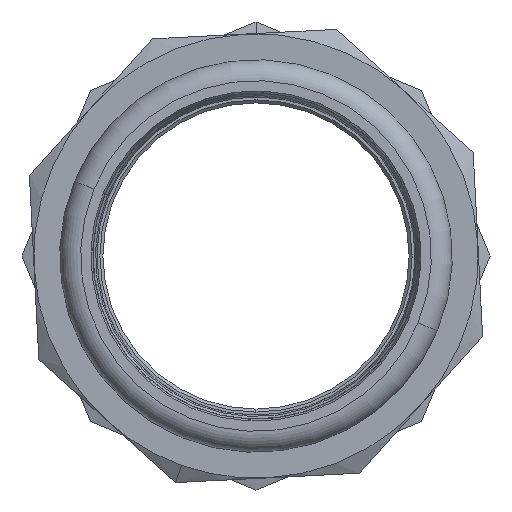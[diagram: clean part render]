
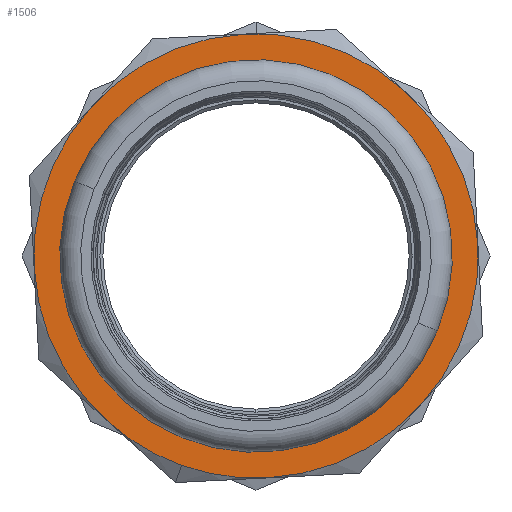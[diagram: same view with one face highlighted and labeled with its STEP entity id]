
A CAD part, left-side view. The second image highlights one B-rep face of the part: STEP entity #1506.
In plain terms, the highlighted planar face has unit normal (-1, 0, 0) as drawn and (0, 1, 0) by its records, which use the part's own axes.
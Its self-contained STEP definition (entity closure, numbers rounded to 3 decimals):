
#29 = CIRCLE ( 'NONE', #2797, 37. ) ;
#47 = EDGE_CURVE ( 'NONE', #2374, #528, #3979, .T. ) ;
#184 = CARTESIAN_POINT ( 'NONE',  ( -14.159, 23., 34.184 ) ) ;
#193 = CIRCLE ( 'NONE', #3686, 37. ) ;
#201 = AXIS2_PLACEMENT_3D ( 'NONE', #1074, #703, #1417 ) ;
#204 = AXIS2_PLACEMENT_3D ( 'NONE', #846, #2283, #2995 ) ;
#220 = FACE_BOUND ( 'NONE', #3911, .T. ) ;
#248 = AXIS2_PLACEMENT_3D ( 'NONE', #3190, #749, #1475 ) ;
#283 = CARTESIAN_POINT ( 'NONE',  ( 0., 23., 0. ) ) ;
#350 = CIRCLE ( 'NONE', #204, 37. ) ;
#375 = CARTESIAN_POINT ( 'NONE',  ( -34.184, 23., 14.159 ) ) ;
#528 = VERTEX_POINT ( 'NONE', #1035 ) ;
#556 = DIRECTION ( 'NONE',  ( 0., 0., 1. ) ) ;
#558 = AXIS2_PLACEMENT_3D ( 'NONE', #283, #2404, #2071 ) ;
#603 = EDGE_CURVE ( 'NONE', #2034, #4062, #2807, .T. ) ;
#639 = DIRECTION ( 'NONE',  ( 0., 0., 1. ) ) ;
#642 = ORIENTED_EDGE ( 'NONE', *, *, #3900, .T. ) ;
#700 = CIRCLE ( 'NONE', #2695, 37. ) ;
#703 = DIRECTION ( 'NONE',  ( 0., 1., 0. ) ) ;
#749 = DIRECTION ( 'NONE',  ( 0., 1., 0. ) ) ;
#806 = CARTESIAN_POINT ( 'NONE',  ( 0., 23., 0. ) ) ;
#846 = CARTESIAN_POINT ( 'NONE',  ( 0., 23., 0. ) ) ;
#936 = CARTESIAN_POINT ( 'NONE',  ( 14.159, 23., 34.184 ) ) ;
#946 = DIRECTION ( 'NONE',  ( 0., 0., 1. ) ) ;
#949 = AXIS2_PLACEMENT_3D ( 'NONE', #987, #2632, #1332 ) ;
#961 = DIRECTION ( 'NONE',  ( 0., 0., 1. ) ) ;
#987 = CARTESIAN_POINT ( 'NONE',  ( 0., 23., 0. ) ) ;
#1035 = CARTESIAN_POINT ( 'NONE',  ( 0., 23., 29.15 ) ) ;
#1074 = CARTESIAN_POINT ( 'NONE',  ( 0., 23., 0. ) ) ;
#1120 = ORIENTED_EDGE ( 'NONE', *, *, #4374, .F. ) ;
#1168 = DIRECTION ( 'NONE',  ( 0., 0., 1. ) ) ;
#1214 = CARTESIAN_POINT ( 'NONE',  ( 34.184, 23., 14.159 ) ) ;
#1228 = AXIS2_PLACEMENT_3D ( 'NONE', #3403, #1977, #556 ) ;
#1332 = DIRECTION ( 'NONE',  ( 0., 0., 1. ) ) ;
#1334 = CARTESIAN_POINT ( 'NONE',  ( 14.159, 23., -34.184 ) ) ;
#1354 = DIRECTION ( 'NONE',  ( 0., 1., 0. ) ) ;
#1366 = DIRECTION ( 'NONE',  ( 0., 1., 0. ) ) ;
#1374 = ORIENTED_EDGE ( 'NONE', *, *, #3738, .T. ) ;
#1417 = DIRECTION ( 'NONE',  ( 0., 0., 1. ) ) ;
#1439 = AXIS2_PLACEMENT_3D ( 'NONE', #806, #2686, #1168 ) ;
#1475 = DIRECTION ( 'NONE',  ( 0., 0., 1. ) ) ;
#1506 = ADVANCED_FACE ( 'NONE', ( #220, #2912 ), #1974, .T. ) ;
#1692 = VERTEX_POINT ( 'NONE', #936 ) ;
#1693 = CIRCLE ( 'NONE', #949, 37. ) ;
#1699 = CIRCLE ( 'NONE', #1228, 37. ) ;
#1740 = DIRECTION ( 'NONE',  ( 0., 1., 0. ) ) ;
#1743 = CIRCLE ( 'NONE', #201, 37. ) ;
#1792 = VERTEX_POINT ( 'NONE', #1334 ) ;
#1845 = ORIENTED_EDGE ( 'NONE', *, *, #1860, .T. ) ;
#1860 = EDGE_CURVE ( 'NONE', #1692, #2034, #1743, .T. ) ;
#1898 = EDGE_LOOP ( 'NONE', ( #3720, #2853, #1845, #4412, #4179, #1374, #642, #3011, #2837 ) ) ;
#1974 = PLANE ( 'NONE',  #1439 ) ;
#1977 = DIRECTION ( 'NONE',  ( 0., 1., 0. ) ) ;
#2034 = VERTEX_POINT ( 'NONE', #1214 ) ;
#2042 = DIRECTION ( 'NONE',  ( 0., 0., 1. ) ) ;
#2071 = DIRECTION ( 'NONE',  ( 0., 0., 1. ) ) ;
#2087 = DIRECTION ( 'NONE',  ( 0., 1., 0. ) ) ;
#2237 = EDGE_CURVE ( 'NONE', #4399, #3626, #1693, .T. ) ;
#2267 = CIRCLE ( 'NONE', #558, 29.15 ) ;
#2283 = DIRECTION ( 'NONE',  ( 0., 1., 0. ) ) ;
#2284 = AXIS2_PLACEMENT_3D ( 'NONE', #2423, #2087, #2042 ) ;
#2363 = DIRECTION ( 'NONE',  ( 0., 1., 0. ) ) ;
#2374 = VERTEX_POINT ( 'NONE', #2949 ) ;
#2404 = DIRECTION ( 'NONE',  ( 0., 1., 0. ) ) ;
#2405 = ORIENTED_EDGE ( 'NONE', *, *, #47, .F. ) ;
#2423 = CARTESIAN_POINT ( 'NONE',  ( 0., 23., 0. ) ) ;
#2462 = VERTEX_POINT ( 'NONE', #184 ) ;
#2563 = EDGE_CURVE ( 'NONE', #2462, #4139, #700, .T. ) ;
#2621 = CARTESIAN_POINT ( 'NONE',  ( 0., 23., 37. ) ) ;
#2632 = DIRECTION ( 'NONE',  ( 0., 1., 0. ) ) ;
#2686 = DIRECTION ( 'NONE',  ( 0., 1., 0. ) ) ;
#2695 = AXIS2_PLACEMENT_3D ( 'NONE', #4153, #2363, #946 ) ;
#2745 = CARTESIAN_POINT ( 'NONE',  ( 0., 23., 0. ) ) ;
#2764 = CARTESIAN_POINT ( 'NONE',  ( -34.184, 23., -14.159 ) ) ;
#2769 = DIRECTION ( 'NONE',  ( 0., 0., 1. ) ) ;
#2772 = VERTEX_POINT ( 'NONE', #3864 ) ;
#2797 = AXIS2_PLACEMENT_3D ( 'NONE', #3127, #1354, #2769 ) ;
#2807 = CIRCLE ( 'NONE', #3699, 37. ) ;
#2837 = ORIENTED_EDGE ( 'NONE', *, *, #3335, .T. ) ;
#2853 = ORIENTED_EDGE ( 'NONE', *, *, #3891, .T. ) ;
#2883 = EDGE_CURVE ( 'NONE', #4062, #1792, #3321, .T. ) ;
#2912 = FACE_OUTER_BOUND ( 'NONE', #1898, .T. ) ;
#2949 = CARTESIAN_POINT ( 'NONE',  ( 0., 23., -29.15 ) ) ;
#2995 = DIRECTION ( 'NONE',  ( 0., 0., 1. ) ) ;
#3011 = ORIENTED_EDGE ( 'NONE', *, *, #2237, .T. ) ;
#3127 = CARTESIAN_POINT ( 'NONE',  ( 0., 23., 0. ) ) ;
#3190 = CARTESIAN_POINT ( 'NONE',  ( 0., 23., 0. ) ) ;
#3321 = CIRCLE ( 'NONE', #2284, 37. ) ;
#3335 = EDGE_CURVE ( 'NONE', #3626, #2462, #350, .T. ) ;
#3403 = CARTESIAN_POINT ( 'NONE',  ( 0., 23., 0. ) ) ;
#3477 = CARTESIAN_POINT ( 'NONE',  ( 0., 23., 0. ) ) ;
#3626 = VERTEX_POINT ( 'NONE', #375 ) ;
#3686 = AXIS2_PLACEMENT_3D ( 'NONE', #3477, #1366, #961 ) ;
#3699 = AXIS2_PLACEMENT_3D ( 'NONE', #2745, #1740, #639 ) ;
#3720 = ORIENTED_EDGE ( 'NONE', *, *, #2563, .T. ) ;
#3738 = EDGE_CURVE ( 'NONE', #1792, #2772, #1699, .T. ) ;
#3864 = CARTESIAN_POINT ( 'NONE',  ( -14.159, 23., -34.184 ) ) ;
#3891 = EDGE_CURVE ( 'NONE', #4139, #1692, #193, .T. ) ;
#3900 = EDGE_CURVE ( 'NONE', #2772, #4399, #29, .T. ) ;
#3911 = EDGE_LOOP ( 'NONE', ( #1120, #2405 ) ) ;
#3922 = CARTESIAN_POINT ( 'NONE',  ( 34.184, 23., -14.159 ) ) ;
#3979 = CIRCLE ( 'NONE', #248, 29.15 ) ;
#4062 = VERTEX_POINT ( 'NONE', #3922 ) ;
#4139 = VERTEX_POINT ( 'NONE', #2621 ) ;
#4153 = CARTESIAN_POINT ( 'NONE',  ( 0., 23., 0. ) ) ;
#4179 = ORIENTED_EDGE ( 'NONE', *, *, #2883, .T. ) ;
#4374 = EDGE_CURVE ( 'NONE', #528, #2374, #2267, .T. ) ;
#4399 = VERTEX_POINT ( 'NONE', #2764 ) ;
#4412 = ORIENTED_EDGE ( 'NONE', *, *, #603, .T. ) ;
